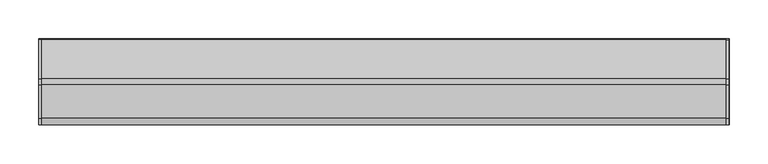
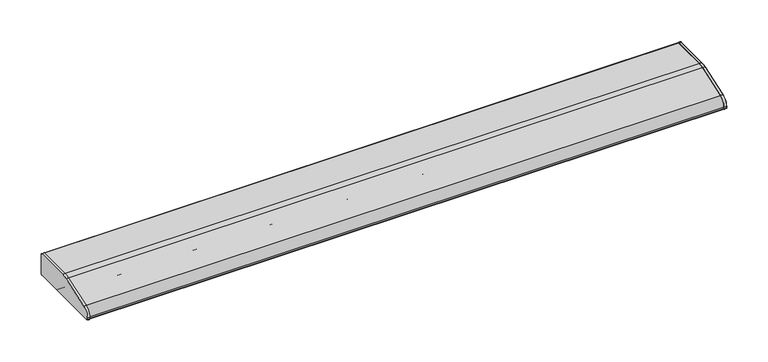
"""IFC4 building model written with IfcOpenShell, lengths in millimetres: light fixture geometry, HermanMiller_SupplementalProducts_G6136_UtilityTaskLight : AO Etho Canvas 42W."""

import ifcopenshell
import ifcopenshell.guid

model = None  # the IFC model being written
_history = None  # IfcOwnerHistory: only IFC2X3 demands one
_inside = {}  # id of a spatial element -> (the spatial element, [elements in it])
_under = {}  # id of a project, library or spatial element -> (it, [spatial elements below it])
_declared = {}  # id of a project -> (the project, [libraries it declares])
_typed = {}  # id of a type object -> (the type object, [elements of that type])
_made_of = {}  # id of a material, layer set ... -> (it, [elements and type objects made of it])


def new_model(schema):
    """Start an empty IFC model of exactly this schema.

    Asked for "IFC4X3", IfcOpenShell would pick the latest addendum, in which some entities
    have other attributes; the version numbers below select the first issue.
    IFC2X3 requires an IfcOwnerHistory on every rooted entity: one is made here for all.
    """
    global model, _history
    if schema == "IFC4X3":
        model = ifcopenshell.file(schema_version=(4, 3, 0, 0))
    else:
        model = ifcopenshell.file(schema=schema)
    _inside.clear()
    _under.clear()
    _declared.clear()
    _typed.clear()
    _made_of.clear()
    _history = None
    if model.schema == "IFC2X3":
        org = make("IfcOrganization", Name="unknown")
        user = make(
            "IfcPersonAndOrganization",
            ThePerson=make("IfcPerson", FamilyName="unknown"),
            TheOrganization=org,
        )
        app = make(
            "IfcApplication",
            ApplicationDeveloper=org,
            Version="unknown",
            ApplicationFullName="unknown",
            ApplicationIdentifier="unknown",
        )
        _history = make(
            "IfcOwnerHistory",
            OwningUser=user,
            OwningApplication=app,
            ChangeAction="ADDED",
            CreationDate=0,
        )
    return model


def make(cls, **values):
    """One entity of the class cls with the attributes given. An attribute that is None is left unset."""
    return model.create_entity(
        cls, **{name: value for name, value in values.items() if value is not None}
    )


def rooted(cls, **values):
    """An entity with a GlobalId (a new one), such as an element, a storey or a relation."""
    return make(cls, GlobalId=ifcopenshell.guid.new(), OwnerHistory=_history, **values)


def si_unit(unit_type, name, prefix=None):
    """IfcSIUnit, for example si_unit("LENGTHUNIT", "METRE", prefix="MILLI")."""
    return make("IfcSIUnit", UnitType=unit_type, Prefix=prefix, Name=name)


def assignment(units):
    """IfcUnitAssignment: the units of a project."""
    return None if units is None else make("IfcUnitAssignment", Units=units)


def point(xyz):
    """IfcCartesianPoint."""
    return None if xyz is None else make("IfcCartesianPoint", Coordinates=xyz)


def direction(xyz):
    """IfcDirection."""
    return None if xyz is None else make("IfcDirection", DirectionRatios=xyz)


def frame(location, z_axis=None, x_axis=None):
    """IfcAxis2Placement3D, a coordinate frame: its origin and axes. An axis left out is left unset."""
    return make(
        "IfcAxis2Placement3D",
        Location=point(location),
        Axis=direction(z_axis),
        RefDirection=direction(x_axis),
    )


def frame_2d(location, x_axis=None):
    """IfcAxis2Placement2D, a coordinate frame in the plane: its origin and x axis."""
    return make(
        "IfcAxis2Placement2D", Location=point(location), RefDirection=direction(x_axis)
    )


def origin():
    """The frame at (0, 0, 0) with its axes left unset."""
    return frame((0.0, 0.0, 0.0))


def place(relative_to, where):
    """IfcLocalPlacement: puts the frame where relative to a parent placement (None: the world)."""
    return make(
        "IfcLocalPlacement", PlacementRelTo=relative_to, RelativePlacement=where
    )


def context(
    kind, dimensions, precision=None, world=None, true_north=None, identifier=None
):
    """IfcGeometricRepresentationContext, for example the 3D "Model" context."""
    return make(
        "IfcGeometricRepresentationContext",
        ContextIdentifier=identifier,
        ContextType=kind,
        CoordinateSpaceDimension=dimensions,
        Precision=precision,
        WorldCoordinateSystem=world,
        TrueNorth=true_north,
    )


def project(units=None, contexts=None):
    """IfcProject with its units and contexts."""
    return rooted(
        "IfcProject",
        Name="project",
        RepresentationContexts=contexts,
        UnitsInContext=assignment(units),
    )


def spatial(cls, under=None, at=None, **own):
    """A site, building, storey or space (cls), placed at a placement, below another one or the project."""
    s = rooted(cls, ObjectPlacement=at, **own)
    if under is not None:
        _under.setdefault(under.id(), (under, []))[1].append(s)
    return s


def polyline(points):
    """IfcPolyline through the points."""
    return make("IfcPolyline", Points=[point(p) for p in points])


def circle_curve(where, radius):
    """IfcCircle in the frame where."""
    return make("IfcCircle", Position=where, Radius=radius)


def trimmed(basis, trim1, trim2, sense, master):
    """IfcTrimmedCurve: the piece of a basis curve between two trims."""
    return make(
        "IfcTrimmedCurve",
        BasisCurve=basis,
        Trim1=trim1,
        Trim2=trim2,
        SenseAgreement=sense,
        MasterRepresentation=master,
    )


def segment(curve, same_sense, transition):
    """IfcCompositeCurveSegment."""
    return make(
        "IfcCompositeCurveSegment",
        Transition=transition,
        SameSense=same_sense,
        ParentCurve=curve,
    )


def composite_curve(segments, self_intersect=None):
    """IfcCompositeCurve: segments joined end to end."""
    return make("IfcCompositeCurve", Segments=segments, SelfIntersect=self_intersect)


def outline(outer, holes=None, kind="AREA"):
    """IfcArbitraryClosedProfileDef: a profile drawn as a closed curve; with holes, ...WithVoids."""
    if holes is None:
        return make("IfcArbitraryClosedProfileDef", ProfileType=kind, OuterCurve=outer)
    return make(
        "IfcArbitraryProfileDefWithVoids",
        ProfileType=kind,
        OuterCurve=outer,
        InnerCurves=holes,
    )


def extrude(swept, where, along, depth):
    """IfcExtrudedAreaSolid: the profile swept, set in the frame where, extruded along a direction by depth."""
    return make(
        "IfcExtrudedAreaSolid",
        SweptArea=swept,
        Position=where,
        ExtrudedDirection=direction(along),
        Depth=depth,
    )


def shape(context_of_items, identifier, shape_type, items):
    """IfcShapeRepresentation: the items that make up one representation, for example the "Body"."""
    return make(
        "IfcShapeRepresentation",
        ContextOfItems=context_of_items,
        RepresentationIdentifier=identifier,
        RepresentationType=shape_type,
        Items=items,
    )


def source(mapping_origin, context_of_items, identifier, shape_type, items):
    """IfcRepresentationMap: a shape defined once, which mapped items show again and again."""
    return make(
        "IfcRepresentationMap",
        MappingOrigin=mapping_origin,
        MappedRepresentation=shape(context_of_items, identifier, shape_type, items),
    )


def transform(
    local_origin,
    x_axis=None,
    y_axis=None,
    z_axis=None,
    scale=None,
    scale2=None,
    scale3=None,
    uniform=True,
):
    """IfcCartesianTransformationOperator3D, or its non-uniform kind. x_axis, y_axis, z_axis: its Axis1, 2, 3."""
    if uniform:
        return make(
            "IfcCartesianTransformationOperator3D",
            Axis1=direction(x_axis),
            Axis2=direction(y_axis),
            LocalOrigin=point(local_origin),
            Scale=scale,
            Axis3=direction(z_axis),
        )
    return make(
        "IfcCartesianTransformationOperator3DnonUniform",
        Axis1=direction(x_axis),
        Axis2=direction(y_axis),
        LocalOrigin=point(local_origin),
        Scale=scale,
        Axis3=direction(z_axis),
        Scale2=scale2,
        Scale3=scale3,
    )


def mapped(mapping_source, mapping_target):
    """IfcMappedItem: shows the shape of a source again, moved by a transform."""
    return make(
        "IfcMappedItem", MappingSource=mapping_source, MappingTarget=mapping_target
    )


def made_of(thing, what):
    """Note that an element or type object is made of a material, layer set ...; save() writes the relation."""
    if what is not None:
        _made_of.setdefault(what.id(), (what, []))[1].append(thing)
    return thing


def element(
    cls,
    number,
    at=None,
    inside=None,
    cuts=None,
    type_object=None,
    material=None,
    context=None,
    identifier="Body",
    shape_type=None,
    held_by="IfcProductDefinitionShape",
    body=None,
    shapes=None,
    **own,
):
    """One element of the class cls, such as IfcWall. Its Tag is "e" and its number.

    at: its placement. inside: the storey or other place that contains it. cuts: it is an
    opening in that element (IfcRelVoidsElement). A single representation is given by context,
    identifier, shape_type and body (its items); several are given by shapes. held_by: the class
    of the entity that holds the representations. save() writes the other relations.
    """
    e = rooted(cls, Tag="e%d" % number, ObjectPlacement=at, **own)
    if body is not None:
        shapes = [shape(context, identifier, shape_type, body)]
    if shapes is not None:
        e.Representation = make(held_by, Representations=shapes)
    if inside is not None:
        _inside.setdefault(inside.id(), (inside, []))[1].append(e)
    if cuts is not None:
        rooted(
            "IfcRelVoidsElement", RelatingBuildingElement=cuts, RelatedOpeningElement=e
        )
    if type_object is not None:
        _typed.setdefault(type_object.id(), (type_object, []))[1].append(e)
    return made_of(e, material)


def aggregate(whole, parts):
    """IfcRelAggregates: a whole, such as a stair, and the parts it consists of."""
    return rooted("IfcRelAggregates", RelatingObject=whole, RelatedObjects=parts)


def save(model, path):
    """Write the relations noted so far, then the file.

    IfcRelAggregates (storeys below a building ...), IfcRelContainedInSpatialStructure (elements
    in a storey), IfcRelDefinesByType, IfcRelAssociatesMaterial and IfcRelDeclares: one each for
    every whole, place, type object, material and project.
    """
    for whole, parts in _under.values():
        aggregate(whole, parts)
    for where, things in _inside.values():
        rooted(
            "IfcRelContainedInSpatialStructure",
            RelatedElements=things,
            RelatingStructure=where,
        )
    for kind, things in _typed.values():
        rooted("IfcRelDefinesByType", RelatedObjects=things, RelatingType=kind)
    for what, things in _made_of.values():
        rooted("IfcRelAssociatesMaterial", RelatedObjects=things, RelatingMaterial=what)
    for by, libraries in _declared.values():
        rooted("IfcRelDeclares", RelatingContext=by, RelatedDefinitions=libraries)
    model.write(path)


def light_fixture_75efd82d(model_context):
    return source(origin(), model_context, "Body", "SweptSolid", [
        extrude(outline(composite_curve([segment(polyline([(53.975, 1263.65), (-53.975, 1263.65)]), True, "CONTINUOUS"), segment(trimmed(circle_curve(frame_2d((-53.975, 1265.2375)), 1.5875), [point((-53.975, 1263.65))], [point((-55.5625, 1265.2375))], False, "CARTESIAN"), True, "CONTINUOUS"), segment(polyline([(-55.5625, 1265.2375), (-55.5625, 1267.2785714)]), True, "CONTINUOUS"), segment(trimmed(circle_curve(frame_2d((-42.8625, 1267.2785714)), 12.7), [point((-55.5625, 1267.2785714))], [point((-46.9814189, 1279.2920849))], False, "CARTESIAN"), True, "CONTINUOUS"), segment(polyline([(-46.9814189, 1279.2920849), (-4.0045045, 1294.027027)]), True, "CONTINUOUS"), segment(trimmed(circle_curve(frame_2d((4.2333333, 1270.0)), 25.4), [point((-4.0045045, 1294.027027))], [point((4.2333333, 1295.4))], False, "CARTESIAN"), True, "CONTINUOUS"), segment(polyline([(4.2333333, 1295.4), (53.975, 1295.4)]), True, "CONTINUOUS"), segment(trimmed(circle_curve(frame_2d((53.975, 1293.8125)), 1.5875), [point((53.975, 1295.4))], [point((55.5625, 1293.8125))], False, "CARTESIAN"), True, "CONTINUOUS"), segment(polyline([(55.5625, 1293.8125), (55.5625, 1265.2375)]), True, "CONTINUOUS"), segment(trimmed(circle_curve(frame_2d((53.975, 1265.2375)), 1.5875), [point((55.5625, 1265.2375))], [point((53.975, 1263.65))], False, "CARTESIAN"), True, "CONTINUOUS")], self_intersect=False)), frame((441.833, 0.0, 0.0), z_axis=(1.0, 0.0, 0.0), x_axis=(0.0, 1.0, 0.0)), (0.0, 0.0, 1.0), 3.175),
        extrude(outline(composite_curve([segment(trimmed(circle_curve(frame_2d((53.975, 1293.8125)), 1.5875), [point((53.975, 1295.4))], [point((55.5625, 1293.8125))], False, "CARTESIAN"), True, "CONTINUOUS"), segment(polyline([(55.5625, 1293.8125), (55.5625, 1265.2375)]), True, "CONTINUOUS"), segment(trimmed(circle_curve(frame_2d((53.975, 1265.2375)), 1.5875), [point((55.5625, 1265.2375))], [point((53.975, 1263.65))], False, "CARTESIAN"), True, "CONTINUOUS"), segment(polyline([(53.975, 1263.65), (-53.975, 1263.65)]), True, "CONTINUOUS"), segment(trimmed(circle_curve(frame_2d((-53.975, 1265.2375)), 1.5875), [point((-53.975, 1263.65))], [point((-55.5625, 1265.2375))], False, "CARTESIAN"), True, "CONTINUOUS"), segment(polyline([(-55.5625, 1265.2375), (-55.5625, 1267.2785714)]), True, "CONTINUOUS"), segment(trimmed(circle_curve(frame_2d((-42.8625, 1267.2785714)), 12.7), [point((-55.5625, 1267.2785714))], [point((-46.9814189, 1279.2920849))], False, "CARTESIAN"), True, "CONTINUOUS"), segment(polyline([(-46.9814189, 1279.2920849), (-4.0045045, 1294.027027)]), True, "CONTINUOUS"), segment(trimmed(circle_curve(frame_2d((4.2333333, 1270.0)), 25.4), [point((-4.0045045, 1294.027027))], [point((4.2333333, 1295.4))], False, "CARTESIAN"), True, "CONTINUOUS"), segment(polyline([(4.2333333, 1295.4), (53.975, 1295.4)]), True, "CONTINUOUS")], self_intersect=False)), frame((-445.008, 0.0, 0.0), z_axis=(1.0, 0.0, 0.0), x_axis=(0.0, 1.0, 0.0)), (0.0, 0.0, 1.0), 3.175),
        extrude(outline(composite_curve([segment(polyline([(55.5625, 1293.8125), (55.5625, 1265.2375)]), True, "CONTINUOUS"), segment(trimmed(circle_curve(frame_2d((53.975, 1265.2375)), 1.5875), [point((55.5625, 1265.2375))], [point((53.975, 1263.65))], False, "CARTESIAN"), True, "CONTINUOUS"), segment(polyline([(53.975, 1263.65), (19.05, 1263.65)]), True, "CONTINUOUS"), segment(trimmed(circle_curve(frame_2d((19.05, 1265.2375)), 1.5875), [point((19.05, 1263.65))], [point((17.4625, 1265.2375))], False, "CARTESIAN"), True, "CONTINUOUS"), segment(polyline([(17.4625, 1265.2375), (17.4625, 1293.8125), (4.4979167, 1293.8125)]), True, "CONTINUOUS"), segment(trimmed(circle_curve(frame_2d((4.4979167, 1268.4125)), 25.4), [point((4.4979167, 1293.8125))], [point((-3.7399212, 1292.439527))], True, "CARTESIAN"), True, "CONTINUOUS"), segment(polyline([(-3.7399212, 1292.439527), (-37.4564189, 1280.8795849)]), True, "CONTINUOUS"), segment(trimmed(circle_curve(frame_2d((-33.3375, 1268.8660714)), 12.7), [point((-37.4564189, 1280.8795849))], [point((-46.0375, 1268.8660714))], True, "CARTESIAN"), True, "CONTINUOUS"), segment(polyline([(-46.0375, 1268.8660714), (-46.0375, 1265.2375)]), True, "CONTINUOUS"), segment(trimmed(circle_curve(frame_2d((-47.625, 1265.2375)), 1.5875), [point((-46.0375, 1265.2375))], [point((-47.625, 1263.65))], False, "CARTESIAN"), True, "CONTINUOUS"), segment(polyline([(-47.625, 1263.65), (-53.975, 1263.65)]), True, "CONTINUOUS"), segment(trimmed(circle_curve(frame_2d((-53.975, 1265.2375)), 1.5875), [point((-53.975, 1263.65))], [point((-55.5625, 1265.2375))], False, "CARTESIAN"), True, "CONTINUOUS"), segment(polyline([(-55.5625, 1265.2375), (-55.5625, 1267.2785714)]), True, "CONTINUOUS"), segment(trimmed(circle_curve(frame_2d((-42.8625, 1267.2785714)), 12.7), [point((-55.5625, 1267.2785714))], [point((-46.9814189, 1279.2920849))], False, "CARTESIAN"), True, "CONTINUOUS"), segment(polyline([(-46.9814189, 1279.2920849), (-4.0045045, 1294.027027)]), True, "CONTINUOUS"), segment(trimmed(circle_curve(frame_2d((4.2333333, 1270.0)), 25.4), [point((-4.0045045, 1294.027027))], [point((4.2333333, 1295.4))], False, "CARTESIAN"), True, "CONTINUOUS"), segment(polyline([(4.2333333, 1295.4), (53.975, 1295.4)]), True, "CONTINUOUS"), segment(trimmed(circle_curve(frame_2d((53.975, 1293.8125)), 1.5875), [point((53.975, 1295.4))], [point((55.5625, 1293.8125))], False, "CARTESIAN"), True, "CONTINUOUS")], self_intersect=False)), frame((-445.008, 0.0, 0.0), z_axis=(1.0, 0.0, 0.0), x_axis=(0.0, 1.0, 0.0)), (0.0, 0.0, 1.0), 890.4820011),
        extrude(outline(composite_curve([segment(trimmed(circle_curve(frame_2d((1.5875, 1281.1125)), 9.525), [point((-7.9375, 1281.1125))], [point((11.1125, 1281.1125))], False, "CARTESIAN"), True, "CONTINUOUS"), segment(trimmed(circle_curve(frame_2d((1.5875, 1281.1125)), 9.525), [point((11.1125, 1281.1125))], [point((-7.9375, 1281.1125))], False, "CARTESIAN"), True, "CONTINUOUS")], self_intersect=False)), frame((419.608, 0.0, 0.0), z_axis=(1.0, 0.0, 0.0), x_axis=(0.0, 1.0, 0.0)), (0.0, 0.0, 1.0), 12.7),
        extrude(outline(composite_curve([segment(trimmed(circle_curve(frame_2d((1.5875, 1281.1125)), 9.525), [point((-7.9375, 1281.1125))], [point((11.1125, 1281.1125))], False, "CARTESIAN"), True, "CONTINUOUS"), segment(trimmed(circle_curve(frame_2d((1.5875, 1281.1125)), 9.525), [point((11.1125, 1281.1125))], [point((-7.9375, 1281.1125))], False, "CARTESIAN"), True, "CONTINUOUS")], self_intersect=False)), frame((-432.308, 0.0, 0.0), z_axis=(1.0, 0.0, 0.0), x_axis=(0.0, 1.0, 0.0)), (0.0, 0.0, 1.0), 12.7),
        extrude(outline(composite_curve([segment(trimmed(circle_curve(frame_2d((1.5875, 1281.1125)), 9.525), [point((-7.9375, 1281.1125))], [point((11.1125, 1281.1125))], False, "CARTESIAN"), True, "CONTINUOUS"), segment(trimmed(circle_curve(frame_2d((1.5875, 1281.1125)), 9.525), [point((11.1125, 1281.1125))], [point((-7.9375, 1281.1125))], False, "CARTESIAN"), True, "CONTINUOUS")], self_intersect=False)), frame((-419.608, 0.0, 0.0), z_axis=(1.0, 0.0, 0.0), x_axis=(0.0, 1.0, 0.0)), (0.0, 0.0, 1.0), 839.216),
        extrude(outline(composite_curve([segment(polyline([(17.4625, 1266.825), (-46.0375, 1266.825), (-46.0375, 1268.8660714)]), True, "CONTINUOUS"), segment(trimmed(circle_curve(frame_2d((-33.3375, 1268.8660714)), 12.7), [point((-46.0375, 1268.8660714))], [point((-37.4564189, 1280.8795849))], False, "CARTESIAN"), True, "CONTINUOUS"), segment(polyline([(-37.4564189, 1280.8795849), (-3.7399212, 1292.439527)]), True, "CONTINUOUS"), segment(trimmed(circle_curve(frame_2d((4.4979167, 1268.4125)), 25.4), [point((-3.7399212, 1292.439527))], [point((4.4979167, 1293.8125))], False, "CARTESIAN"), True, "CONTINUOUS"), segment(polyline([(4.4979167, 1293.8125), (17.4625, 1293.8125), (17.4625, 1266.825)]), True, "CONTINUOUS")], self_intersect=False)), frame((432.308, 0.0, 0.0), z_axis=(1.0, 0.0, 0.0), x_axis=(0.0, 1.0, 0.0)), (0.0, 0.0, 1.0), 9.525),
        extrude(outline(composite_curve([segment(polyline([(17.4625, 1266.825), (-46.0375, 1266.825), (-46.0375, 1268.8660714)]), True, "CONTINUOUS"), segment(trimmed(circle_curve(frame_2d((-33.3375, 1268.8660714)), 12.7), [point((-46.0375, 1268.8660714))], [point((-37.4564189, 1280.8795849))], False, "CARTESIAN"), True, "CONTINUOUS"), segment(polyline([(-37.4564189, 1280.8795849), (-3.7399212, 1292.439527)]), True, "CONTINUOUS"), segment(trimmed(circle_curve(frame_2d((4.4979167, 1268.4125)), 25.4), [point((-3.7399212, 1292.439527))], [point((4.4979167, 1293.8125))], False, "CARTESIAN"), True, "CONTINUOUS"), segment(polyline([(4.4979167, 1293.8125), (17.4625, 1293.8125), (17.4625, 1266.825)]), True, "CONTINUOUS")], self_intersect=False)), frame((-441.833, 0.0, 0.0), z_axis=(1.0, 0.0, 0.0), x_axis=(0.0, 1.0, 0.0)), (0.0, 0.0, 1.0), 9.525),
    ])


if __name__ == "__main__":
    model = new_model("IFC4")
    model_context = context("Model", 3, world=origin())
    ifc_project = project(units=[si_unit("LENGTHUNIT", "METRE", prefix="MILLI")], contexts=[model_context])
    site = spatial("IfcSite", under=ifc_project)
    building = spatial("IfcBuilding", under=site)
    placement = place(None, origin())
    light_fixture_shape = light_fixture_75efd82d(model_context)
    element("IfcLightFixture", 1, ObjectType="HermanMiller_SupplementalProducts_G6136_UtilityTaskLight : AO Etho Canvas 42W", at=placement, inside=building, context=model_context, shape_type="MappedRepresentation", body=[
        mapped(light_fixture_shape, transform((0.0, 0.0, 0.0), x_axis=(1.0, 0.0, 0.0), y_axis=(0.0, 1.0, 0.0), z_axis=(0.0, 0.0, 1.0))),
    ])
    save(model, "model.ifc")
